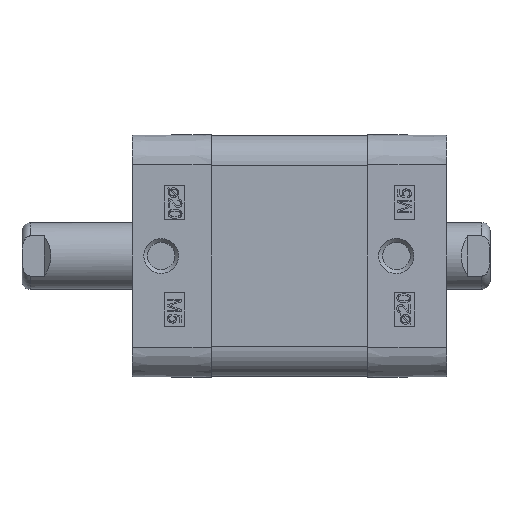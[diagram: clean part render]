
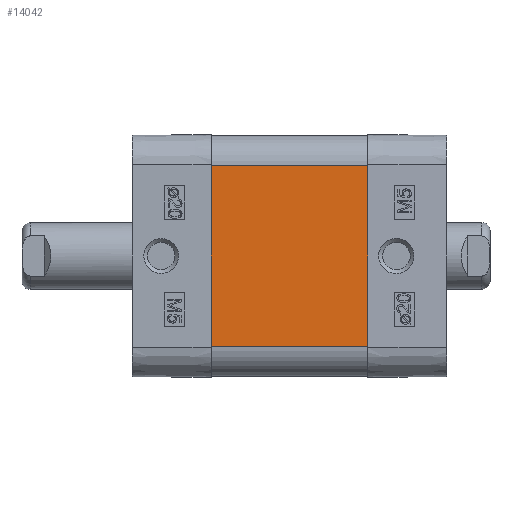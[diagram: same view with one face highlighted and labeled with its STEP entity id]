
A CAD part, left-side view. The second image highlights one B-rep face of the part: STEP entity #14042.
In plain terms, the highlighted planar face has unit normal (-1, 0, 0).
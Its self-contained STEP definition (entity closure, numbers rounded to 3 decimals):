
#787=PLANE('',#14945);
#1518=LINE('',#21438,#2358);
#1546=LINE('',#21551,#2386);
#1628=LINE('',#21771,#2468);
#1629=LINE('',#21773,#2469);
#2358=VECTOR('',#17210,1000.);
#2386=VECTOR('',#17296,1000.);
#2468=VECTOR('',#17542,1000.);
#2469=VECTOR('',#17545,1000.);
#5221=ORIENTED_EDGE('',*,*,#6573,.T.);
#5222=ORIENTED_EDGE('',*,*,#6739,.T.);
#5223=ORIENTED_EDGE('',*,*,#6740,.T.);
#5224=ORIENTED_EDGE('',*,*,#6629,.F.);
#6573=EDGE_CURVE('',#7631,#7632,#1518,.T.);
#6629=EDGE_CURVE('',#7631,#7687,#1546,.T.);
#6739=EDGE_CURVE('',#7632,#7742,#1628,.T.);
#6740=EDGE_CURVE('',#7742,#7687,#1629,.T.);
#7631=VERTEX_POINT('',#21439);
#7632=VERTEX_POINT('',#21440);
#7687=VERTEX_POINT('',#21552);
#7742=VERTEX_POINT('',#21770);
#8884=EDGE_LOOP('',(#5221,#5222,#5223,#5224));
#9656=FACE_BOUND('',#8884,.T.);
#14042=ADVANCED_FACE('',(#9656),#787,.T.);
#14945=AXIS2_PLACEMENT_3D('',#21772,#17543,#17544);
#17210=DIRECTION('',(0.,0.,-1.));
#17296=DIRECTION('',(0.,-1.,0.));
#17542=DIRECTION('',(0.,-1.,0.));
#17543=DIRECTION('',(-1.,0.,0.));
#17544=DIRECTION('',(0.,0.,1.));
#17545=DIRECTION('',(0.,0.,1.));
#21438=CARTESIAN_POINT('',(-18.,9.25,13.5));
#21439=CARTESIAN_POINT('',(-18.,9.25,13.5));
#21440=CARTESIAN_POINT('',(-18.,9.25,-13.5));
#21551=CARTESIAN_POINT('',(-18.,9.25,13.5));
#21552=CARTESIAN_POINT('',(-18.,-14.15,13.5));
#21770=CARTESIAN_POINT('',(-18.,-14.15,-13.5));
#21771=CARTESIAN_POINT('',(-18.,9.25,-13.5));
#21772=CARTESIAN_POINT('',(-18.,0.,13.5));
#21773=CARTESIAN_POINT('',(-18.,-14.15,-13.5));
